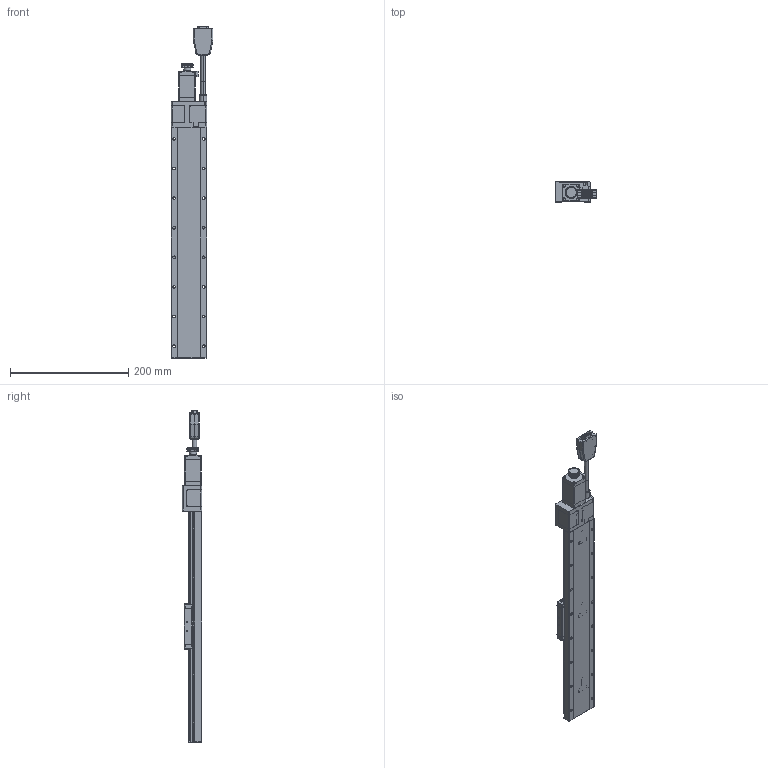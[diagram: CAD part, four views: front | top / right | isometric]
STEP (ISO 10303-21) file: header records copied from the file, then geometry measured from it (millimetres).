
FILE_DESCRIPTION (( 'STEP AP203' ), '1' );
FILE_NAME ('CXN60300-S2?N.STEP', '2023-09-28T03:25:24', ( '' ), ( '' ), 'SwSTEP 2.0', 'SolidWorks 2019', '' );
FILE_SCHEMA (( 'CONFIG_CONTROL_DESIGN' ));
Length unit declared in the file: millimetre
Products named in the file (4): Group5^CXN60300-S2?N(2023新版)_defeature_GMT; CXN60300-S2?N; CXN60-101_GMT; Group4^CXN60300-S2?N(2023新版)_defeature_GMT
Assembly tree (3 placements, depth 2):
  CXN60300-S2?N
    Group4^CXN60300-S2?N(2023新版)_defeature_GMT
    Group5^CXN60300-S2?N(2023新版)_defeature_GMT
    CXN60-101_GMT
Bounding box: 70.5 x 33.5 x 560.6 mm (x, y, z)
Volume: 39612.4 mm3; surface area: 167491.7 mm2
Topology: 22 solids, 25 shells, 4613 faces, 11960 edges, 7430 vertices
Faces by surface type: plane 1834, cylinder 1290, cone 546, torus 422, bspline 387, sphere 134
Entity records: 160011 total; most frequent: CARTESIAN_POINT 48999, ORIENTED_EDGE 23620, DIRECTION 22784, EDGE_CURVE 11810, AXIS2_PLACEMENT_3D 8431, VERTEX_POINT 7422, VECTOR 5922, LINE 5922
